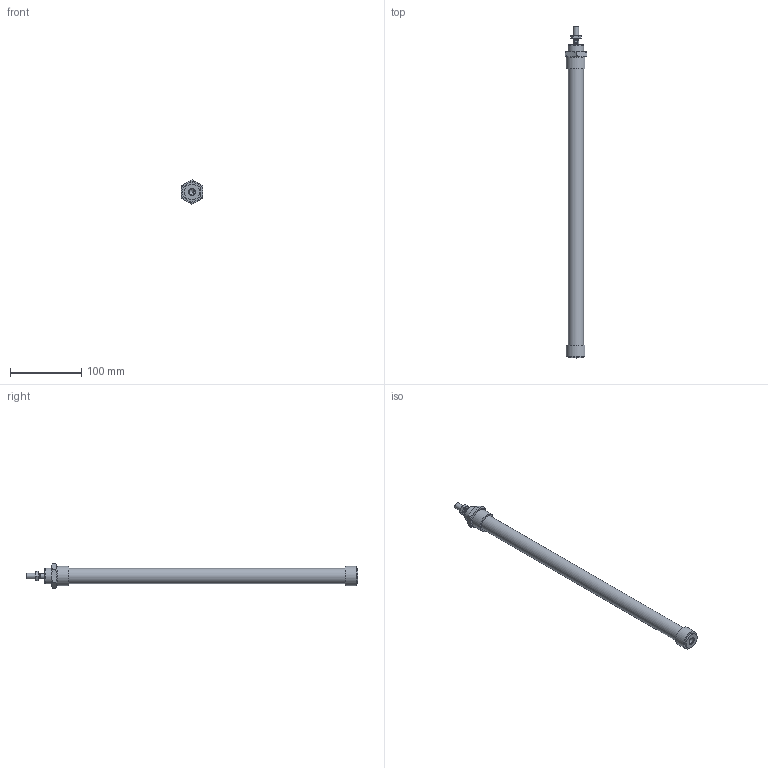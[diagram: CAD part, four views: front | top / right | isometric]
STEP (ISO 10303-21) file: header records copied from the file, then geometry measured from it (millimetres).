
FILE_DESCRIPTION((''),'2;1');
FILE_NAME('I:\Area Tecnica\Disegni\VARIE-3D\Componenti\1280\1281_##_####_#\1281_20_0350.iam.stp','2009-06-04T09:39:57',(''),(''),'Autodesk Inventor 2010','Autodesk Inventor 2010','');
FILE_SCHEMA(('AUTOMOTIVE_DESIGN { 1 0 10303 214 1 1 1 1 }'));
Length unit declared in the file: millimetre
Products named in the file (5): 1281_20_0350; C1281_20_350; S1280_20_350; 1200_20_05; 1200_20_06
Assembly tree (4 placements, depth 2):
  1281_20_0350
    C1281_20_350
    S1280_20_350
    1200_20_05
    1200_20_06
Bounding box: 30 x 464.5 x 34.64 mm (x, y, z)
Volume: 164868.1 mm3; surface area: 54380.7 mm2
Topology: 4 solids, 4 shells, 86 faces, 185 edges, 112 vertices
Faces by surface type: plane 36, cone 26, bspline 15, cylinder 9
Full cylindrical faces by diameter (mm): 6.5 x1, 8 x3, 21.2 x1, 22 x2
Entity records: 2537 total; most frequent: CARTESIAN_POINT 698, DIRECTION 332, ORIENTED_EDGE 310, EDGE_CURVE 155, AXIS2_PLACEMENT_3D 148, EDGE_LOOP 120, VERTEX_POINT 103, STYLED_ITEM 90
